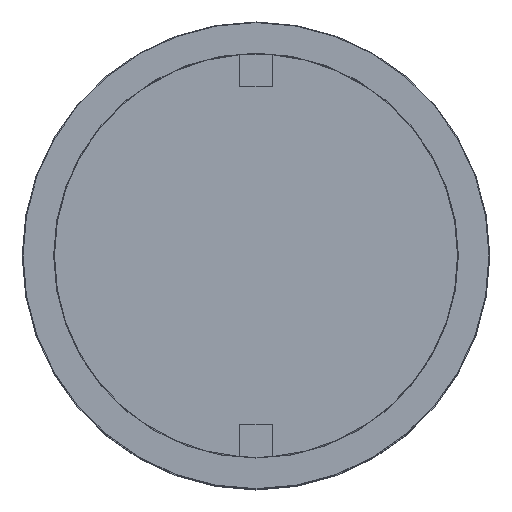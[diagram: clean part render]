
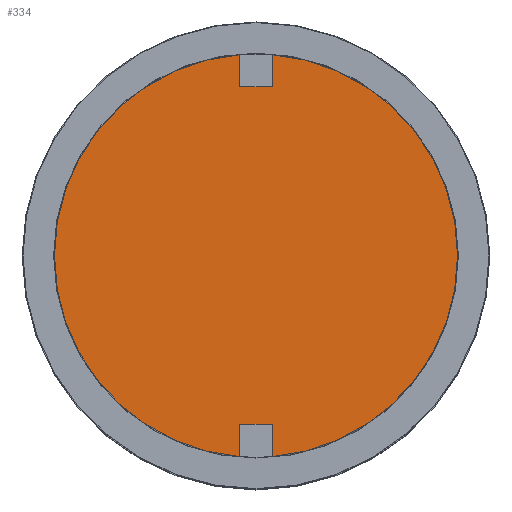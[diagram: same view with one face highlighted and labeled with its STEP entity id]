
A CAD part, top view. The second image highlights one B-rep face of the part: STEP entity #334.
In plain terms, the highlighted planar face has unit normal (0, 0, 1).
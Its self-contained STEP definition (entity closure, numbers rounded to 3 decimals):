
#91 = EDGE_CURVE ( 'NONE', #764, #2105, #701, .T. ) ;
#142 = VECTOR ( 'NONE', #2804, 1000. ) ;
#148 = CARTESIAN_POINT ( 'NONE',  ( -12.5, 0., 18.5 ) ) ;
#220 = CARTESIAN_POINT ( 'NONE',  ( 0., 0., 18.5 ) ) ;
#273 = DIRECTION ( 'NONE',  ( 0., 0., 1. ) ) ;
#334 = ADVANCED_FACE ( 'NONE', ( #1558 ), #1485, .T. ) ;
#338 = DIRECTION ( 'NONE',  ( 0., 0., 1. ) ) ;
#400 = DIRECTION ( 'NONE',  ( -1., 0., 0. ) ) ;
#406 = LINE ( 'NONE', #958, #484 ) ;
#431 = EDGE_CURVE ( 'NONE', #3128, #750, #1221, .T. ) ;
#484 = VECTOR ( 'NONE', #1498, 1000. ) ;
#515 = VERTEX_POINT ( 'NONE', #1242 ) ;
#518 = ORIENTED_EDGE ( 'NONE', *, *, #431, .T. ) ;
#551 = EDGE_CURVE ( 'NONE', #3027, #2662, #2971, .T. ) ;
#583 = CARTESIAN_POINT ( 'NONE',  ( 0., 0., 18.5 ) ) ;
#640 = VERTEX_POINT ( 'NONE', #1638 ) ;
#692 = VECTOR ( 'NONE', #3195, 1000. ) ;
#701 = CIRCLE ( 'NONE', #2773, 12.5 ) ;
#705 = LINE ( 'NONE', #1210, #142 ) ;
#723 = VERTEX_POINT ( 'NONE', #2505 ) ;
#728 = ORIENTED_EDGE ( 'NONE', *, *, #810, .T. ) ;
#729 = EDGE_LOOP ( 'NONE', ( #809, #2115, #882, #942, #1980, #3114, #728, #518, #3325, #926 ) ) ;
#750 = VERTEX_POINT ( 'NONE', #1450 ) ;
#764 = VERTEX_POINT ( 'NONE', #1465 ) ;
#809 = ORIENTED_EDGE ( 'NONE', *, *, #1330, .F. ) ;
#810 = EDGE_CURVE ( 'NONE', #515, #3128, #2545, .T. ) ;
#843 = EDGE_CURVE ( 'NONE', #640, #2998, #2713, .T. ) ;
#848 = DIRECTION ( 'NONE',  ( 1., 0., 0. ) ) ;
#882 = ORIENTED_EDGE ( 'NONE', *, *, #2901, .T. ) ;
#926 = ORIENTED_EDGE ( 'NONE', *, *, #843, .F. ) ;
#942 = ORIENTED_EDGE ( 'NONE', *, *, #3213, .F. ) ;
#944 = CARTESIAN_POINT ( 'NONE',  ( 0., 0., 18.5 ) ) ;
#958 = CARTESIAN_POINT ( 'NONE',  ( -1., -12.46, 18.5 ) ) ;
#1025 = DIRECTION ( 'NONE',  ( 1., 0., 0. ) ) ;
#1147 = VECTOR ( 'NONE', #3098, 1000. ) ;
#1166 = LINE ( 'NONE', #1236, #1147 ) ;
#1210 = CARTESIAN_POINT ( 'NONE',  ( 1., -10.46, 18.5 ) ) ;
#1221 = CIRCLE ( 'NONE', #2618, 12.5 ) ;
#1227 = DIRECTION ( 'NONE',  ( 1., 0., 0. ) ) ;
#1236 = CARTESIAN_POINT ( 'NONE',  ( 1., 10.46, 18.5 ) ) ;
#1242 = CARTESIAN_POINT ( 'NONE',  ( -1., 12.46, 18.5 ) ) ;
#1325 = CARTESIAN_POINT ( 'NONE',  ( -1., 12.46, 18.5 ) ) ;
#1330 = EDGE_CURVE ( 'NONE', #764, #640, #705, .T. ) ;
#1335 = DIRECTION ( 'NONE',  ( 1., 0., 0. ) ) ;
#1348 = AXIS2_PLACEMENT_3D ( 'NONE', #944, #2821, #1227 ) ;
#1450 = CARTESIAN_POINT ( 'NONE',  ( -1., -12.46, 18.5 ) ) ;
#1465 = CARTESIAN_POINT ( 'NONE',  ( 1., -12.46, 18.5 ) ) ;
#1474 = CARTESIAN_POINT ( 'NONE',  ( 0., 0., 18.5 ) ) ;
#1485 = PLANE ( 'NONE',  #2323 ) ;
#1498 = DIRECTION ( 'NONE',  ( 0., -1., 0. ) ) ;
#1510 = CARTESIAN_POINT ( 'NONE',  ( 12.5, 0., 18.5 ) ) ;
#1558 = FACE_OUTER_BOUND ( 'NONE', #729, .T. ) ;
#1579 = EDGE_CURVE ( 'NONE', #2998, #750, #406, .T. ) ;
#1638 = CARTESIAN_POINT ( 'NONE',  ( 1., -10.46, 18.5 ) ) ;
#1640 = CARTESIAN_POINT ( 'NONE',  ( 1., 10.46, 18.5 ) ) ;
#1645 = CARTESIAN_POINT ( 'NONE',  ( -1., -10.46, 18.5 ) ) ;
#1801 = EDGE_CURVE ( 'NONE', #515, #3027, #2964, .T. ) ;
#1820 = AXIS2_PLACEMENT_3D ( 'NONE', #583, #2452, #848 ) ;
#1866 = CARTESIAN_POINT ( 'NONE',  ( 0., 0., 18.5 ) ) ;
#1875 = CIRCLE ( 'NONE', #1820, 12.5 ) ;
#1980 = ORIENTED_EDGE ( 'NONE', *, *, #551, .F. ) ;
#2044 = DIRECTION ( 'NONE',  ( 1., 0., 0. ) ) ;
#2105 = VERTEX_POINT ( 'NONE', #1510 ) ;
#2115 = ORIENTED_EDGE ( 'NONE', *, *, #91, .T. ) ;
#2152 = DIRECTION ( 'NONE',  ( 1., 0., 0. ) ) ;
#2323 = AXIS2_PLACEMENT_3D ( 'NONE', #1474, #338, #2044 ) ;
#2357 = CARTESIAN_POINT ( 'NONE',  ( -1., 10.46, 18.5 ) ) ;
#2452 = DIRECTION ( 'NONE',  ( 0., 0., 1. ) ) ;
#2505 = CARTESIAN_POINT ( 'NONE',  ( 1., 12.46, 18.5 ) ) ;
#2545 = CIRCLE ( 'NONE', #1348, 12.5 ) ;
#2618 = AXIS2_PLACEMENT_3D ( 'NONE', #220, #3152, #1335 ) ;
#2662 = VERTEX_POINT ( 'NONE', #1640 ) ;
#2713 = LINE ( 'NONE', #3092, #3435 ) ;
#2773 = AXIS2_PLACEMENT_3D ( 'NONE', #1866, #273, #2152 ) ;
#2804 = DIRECTION ( 'NONE',  ( 0., 1., 0. ) ) ;
#2821 = DIRECTION ( 'NONE',  ( 0., 0., 1. ) ) ;
#2901 = EDGE_CURVE ( 'NONE', #2105, #723, #1875, .T. ) ;
#2964 = LINE ( 'NONE', #1325, #692 ) ;
#2971 = LINE ( 'NONE', #2357, #3140 ) ;
#2998 = VERTEX_POINT ( 'NONE', #1645 ) ;
#3027 = VERTEX_POINT ( 'NONE', #3287 ) ;
#3092 = CARTESIAN_POINT ( 'NONE',  ( -1., -10.46, 18.5 ) ) ;
#3098 = DIRECTION ( 'NONE',  ( 0., 1., 0. ) ) ;
#3114 = ORIENTED_EDGE ( 'NONE', *, *, #1801, .F. ) ;
#3128 = VERTEX_POINT ( 'NONE', #148 ) ;
#3140 = VECTOR ( 'NONE', #1025, 1000. ) ;
#3152 = DIRECTION ( 'NONE',  ( 0., 0., 1. ) ) ;
#3195 = DIRECTION ( 'NONE',  ( 0., -1., 0. ) ) ;
#3213 = EDGE_CURVE ( 'NONE', #2662, #723, #1166, .T. ) ;
#3287 = CARTESIAN_POINT ( 'NONE',  ( -1., 10.46, 18.5 ) ) ;
#3325 = ORIENTED_EDGE ( 'NONE', *, *, #1579, .F. ) ;
#3435 = VECTOR ( 'NONE', #400, 1000. ) ;
